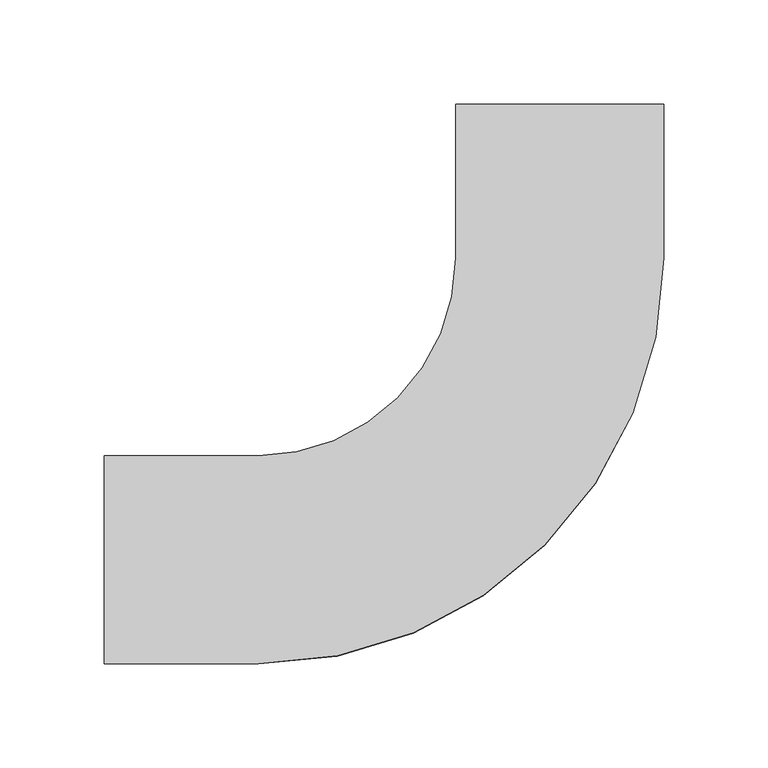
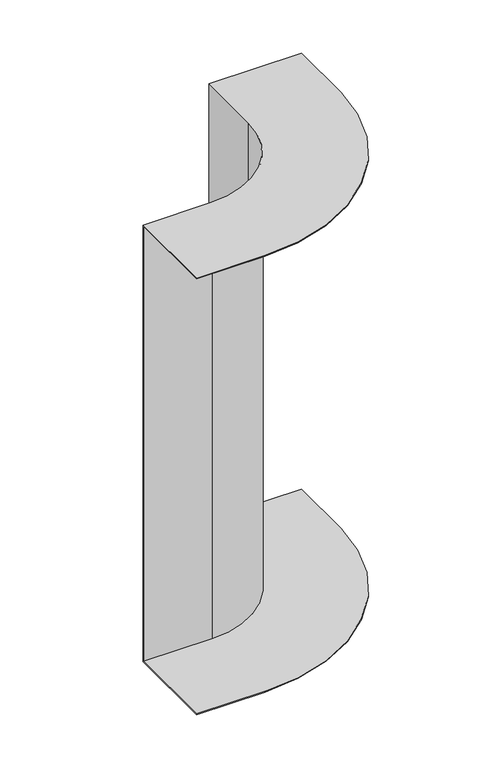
"""IFC4 building model written with IfcOpenShell, lengths in millimetres: cable carrier fitting geometry, BAKS_KK_Vertical bend INTERNAL_LU : LUNJ_H100."""

from ifc_helpers import new_model, si_unit, frame, origin, place, context, project, spatial, polyline, circle_curve, source, transform, mapped, element, save
from ifc_brep_helpers import plane_surface, cylinder_surface, revolved_surface, advanced_brep


def cable_carrier_fitting_8722d5a2(model_context):
    return source(origin(), model_context, "Body", "AdvancedBrep", [
        advanced_brep(
        [(-219.0, -50.0, 250.0), (-219.0, 50.0, 250.0), (-219.0, 50.0, -250.0), (-219.0, -50.0, -250.0), (-219.0, -50.0, -249.0), (-219.0, 49.0, -249.0), (-219.0, 49.0, 249.0), (-219.0, -50.0, 249.0), (50.0, 219.0, 250.0), (50.0, 219.0, 249.0), (-49.0, 219.0, 249.0), (-49.0, 219.0, -249.0), (50.0, 219.0, -249.0), (50.0, 219.0, -250.0), (-50.0, 219.0, -250.0), (-50.0, 219.0, 250.0), (-145.0, -50.0, 250.0), (50.0, 145.0, 250.0), (-50.0, 145.0, 250.0), (-145.0, 50.0, 250.0), (-145.0, 50.0, -250.0), (-50.0, 145.0, -250.0), (50.0, 145.0, -250.0), (-145.0, -50.0, -250.0), (-145.0, -50.0, -249.0), (50.0, 145.0, -249.0), (-49.0, 145.0, -249.0), (-145.0, 49.0, -249.0), (-145.0, 49.0, 249.0), (-49.0, 145.0, 249.0), (50.0, 145.0, 249.0), (-145.0, -50.0, 249.0)],
        [
            (0, 1),
            (1, 2),
            (2, 3),
            (3, 4),
            (4, 5),
            (5, 6),
            (6, 7),
            (7, 0),
            (8, 9),
            (9, 10),
            (10, 11),
            (11, 12),
            (12, 13),
            (13, 14),
            (14, 15),
            (15, 8),
            (0, 16),
            (16, 17, circle_curve(frame((-145.0, 145.0, 250.0), z_axis=(0.0, 0.0, 1.0), x_axis=(0.0, -1.0, 0.0)), 195.0)),
            (17, 8),
            (15, 18),
            (18, 19, circle_curve(frame((-145.0, 145.0, 250.0), z_axis=(0.0, 0.0, -1.0), x_axis=(0.0, -1.0, 0.0)), 95.0)),
            (19, 1),
            (19, 20),
            (20, 2),
            (20, 21, circle_curve(frame((-145.0, 145.0, -250.0), z_axis=(0.0, 0.0, 1.0), x_axis=(0.0, -1.0, 0.0)), 95.0)),
            (21, 14),
            (13, 22),
            (22, 23, circle_curve(frame((-145.0, 145.0, -250.0), z_axis=(0.0, 0.0, -1.0), x_axis=(0.0, -1.0, 0.0)), 195.0)),
            (23, 3),
            (23, 24),
            (24, 4),
            (24, 25, circle_curve(frame((-145.0, 145.0, -249.0), z_axis=(0.0, 0.0, 1.0), x_axis=(0.0, -1.0, 0.0)), 195.0)),
            (25, 12),
            (11, 26),
            (26, 27, circle_curve(frame((-145.0, 145.0, -249.0), z_axis=(0.0, 0.0, -1.0), x_axis=(0.0, -1.0, 0.0)), 96.0)),
            (27, 5),
            (27, 28),
            (28, 6),
            (28, 29, circle_curve(frame((-145.0, 145.0, 249.0), z_axis=(0.0, 0.0, 1.0), x_axis=(0.0, -1.0, 0.0)), 96.0)),
            (29, 10),
            (9, 30),
            (30, 31, circle_curve(frame((-145.0, 145.0, 249.0), z_axis=(0.0, 0.0, -1.0), x_axis=(0.0, -1.0, 0.0)), 195.0)),
            (31, 7),
            (31, 16),
            (18, 21),
            (22, 25),
            (26, 29),
            (30, 17),
        ],
        [
            plane_surface(frame((-219.0, 0.0, 0.0), z_axis=(-1.0, 0.0, 0.0), x_axis=(0.0, 0.0, 1.0))),
            plane_surface(frame((0.0, 219.0, 0.0), z_axis=(0.0, 1.0, 0.0), x_axis=(0.0, 0.0, 1.0))),
            plane_surface(frame((-219.0, -50.0, 250.0), z_axis=(0.0, 0.0, 1.0), x_axis=(1.0, 0.0, 0.0))),
            plane_surface(frame((-219.0, 50.0, 250.0), z_axis=(0.0, 1.0, 0.0), x_axis=(1.0, 0.0, 0.0))),
            plane_surface(frame((-219.0, 50.0, -250.0), z_axis=(0.0, 0.0, -1.0), x_axis=(1.0, 0.0, 0.0))),
            plane_surface(frame((-219.0, -50.0, -250.0), z_axis=(0.0, -1.0, 0.0), x_axis=(1.0, 0.0, 0.0))),
            plane_surface(frame((-219.0, -50.0, -249.0), z_axis=(0.0, 0.0, 1.0), x_axis=(1.0, 0.0, 0.0))),
            plane_surface(frame((-219.0, 49.0, -249.0), z_axis=(0.0, -1.0, 0.0), x_axis=(1.0, 0.0, 0.0))),
            plane_surface(frame((-219.0, 49.0, 249.0), z_axis=(0.0, 0.0, -1.0), x_axis=(1.0, 0.0, 0.0))),
            plane_surface(frame((-219.0, -50.0, 249.0), z_axis=(0.0, -1.0, 0.0), x_axis=(1.0, 0.0, 0.0))),
            revolved_surface(polyline([(-145.0, 50.0, 250.0), (-145.0, 50.0, -250.0)]), (-145.0, 145.0, 0.0), (0.0, 0.0, 1.0)),
            cylinder_surface(frame((-145.0, 145.0, 0.0), z_axis=(0.0, 0.0, 1.0), x_axis=(0.0, -1.0, 0.0)), 195.0),
            cylinder_surface(frame((-145.0, 145.0, 0.0), z_axis=(0.0, 0.0, 1.0), x_axis=(0.0, -1.0, 0.0)), 96.0),
            plane_surface(frame((-50.0, 145.0, 250.0), z_axis=(-1.0, 0.0, 0.0), x_axis=(0.0, 1.0, 0.0))),
            plane_surface(frame((50.0, 145.0, -250.0), z_axis=(1.0, 0.0, 0.0), x_axis=(0.0, 1.0, 0.0))),
            plane_surface(frame((-49.0, 145.0, -249.0), z_axis=(1.0, 0.0, 0.0), x_axis=(0.0, 1.0, 0.0))),
            plane_surface(frame((50.0, 145.0, 249.0), z_axis=(1.0, 0.0, 0.0), x_axis=(0.0, 1.0, 0.0))),
        ],
        [
            (0, [[1, 2, 3, 4, 5, 6, 7, 8]]),
            (1, [[9, 10, 11, 12, 13, 14, 15, 16]]),
            (2, [[-1, 17, 18, 19, -16, 20, 21, 22]]),
            (3, [[-2, -22, 23, 24]]),
            (4, [[-3, -24, 25, 26, -14, 27, 28, 29]]),
            (5, [[-4, -29, 30, 31]]),
            (6, [[-5, -31, 32, 33, -12, 34, 35, 36]]),
            (7, [[-6, -36, 37, 38]]),
            (8, [[-7, -38, 39, 40, -10, 41, 42, 43]]),
            (9, [[-8, -43, 44, -17]]),
            (10, [[-25, -23, -21, 45]]),
            (11, [[-32, -30, -28, 46]]),
            (12, [[-39, -37, -35, 47]]),
            (11, [[-18, -44, -42, 48]]),
            (13, [[-45, -20, -15, -26]]),
            (14, [[-46, -27, -13, -33]]),
            (15, [[-47, -34, -11, -40]]),
            (16, [[-48, -41, -9, -19]]),
        ],
    ),
    ])


if __name__ == "__main__":
    model = new_model("IFC4")
    model_context = context("Model", 3, world=origin())
    ifc_project = project(units=[si_unit("LENGTHUNIT", "METRE", prefix="MILLI")], contexts=[model_context])
    site = spatial("IfcSite", under=ifc_project)
    building = spatial("IfcBuilding", under=site)
    placement = place(None, origin())
    cable_carrier_fitting_shape = cable_carrier_fitting_8722d5a2(model_context)
    element("IfcCableCarrierFitting", 1, ObjectType="BAKS_KK_Vertical bend INTERNAL_LU : LUNJ_H100", at=placement, inside=building, context=model_context, shape_type="MappedRepresentation", body=[
        mapped(cable_carrier_fitting_shape, transform((0.0, 0.0, 0.0), x_axis=(1.0, 0.0, 0.0), y_axis=(0.0, 1.0, 0.0), z_axis=(0.0, 0.0, 1.0))),
    ])
    save(model, "model.ifc")
